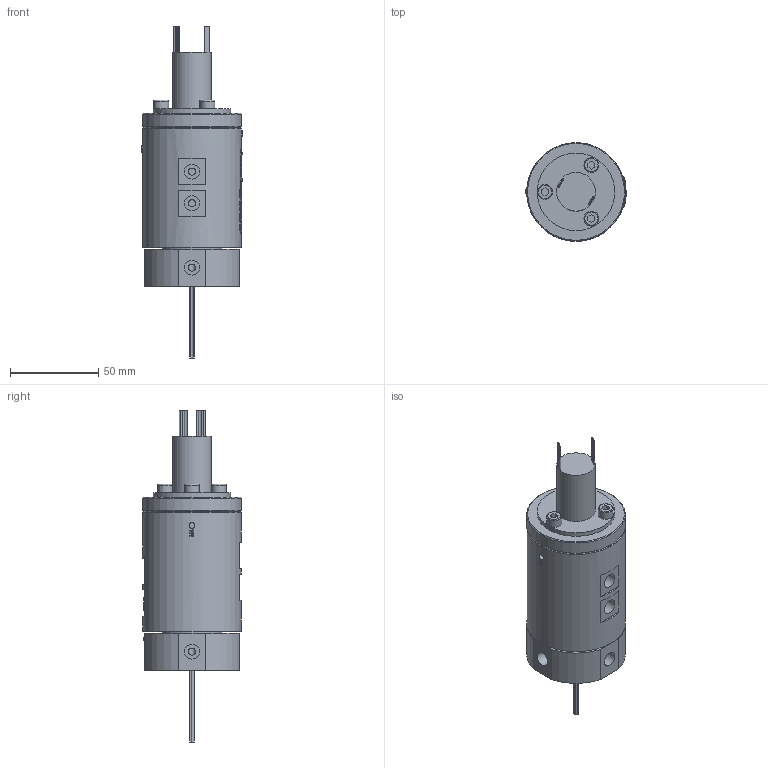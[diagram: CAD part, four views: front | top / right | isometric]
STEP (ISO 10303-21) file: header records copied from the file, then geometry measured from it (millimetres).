
FILE_DESCRIPTION(/* description */ (''),/* implementation_level */ '2;1');
FILE_NAME(/* name */ 'YQ0401-24M.stp',/* time_stamp */ '2025-02-15T15:26:12+08:00',/* author */ (''),/* organization */ (''),/* preprocessor_version */ 'ST-DEVELOPER v16.7',/* originating_system */ 'SIEMENS PLM Software NX 12.0',/* authorisation */ '');
FILE_SCHEMA (('AUTOMOTIVE_DESIGN { 1 0 10303 214 3 1 1 1 }'));
Length unit declared in the file: millimetre
Products named in the file (1): HX0527348ECCpcgc
Bounding box: 57 x 56 x 188.4 mm (x, y, z)
Volume: 245345.4 mm3; surface area: 38337.1 mm2
Topology: 1 solids, 4 shells, 1153 faces, 3061 edges, 2050 vertices
Faces by surface type: extrusion 530, plane 485, cylinder 95, bspline 33, cone 7, torus 3
Full cylindrical faces by diameter (mm): 0.8 x16, 3.4 x6, 4 x12, 4.1 x4, 4.2 x4, 5 x3, 5.5 x3, 7.8 x1, 8 x1, 8.5 x11, 22 x1, 34 x1, 44 x1, 56 x2
Entity records: 43099 total; most frequent: CARTESIAN_POINT 18761, ORIENTED_EDGE 5860, DIRECTION 2945, EDGE_CURVE 2930, B_SPLINE_CURVE_WITH_KNOTS 2534, VERTEX_POINT 2007, EDGE_LOOP 1371, ADVANCED_FACE 1150
